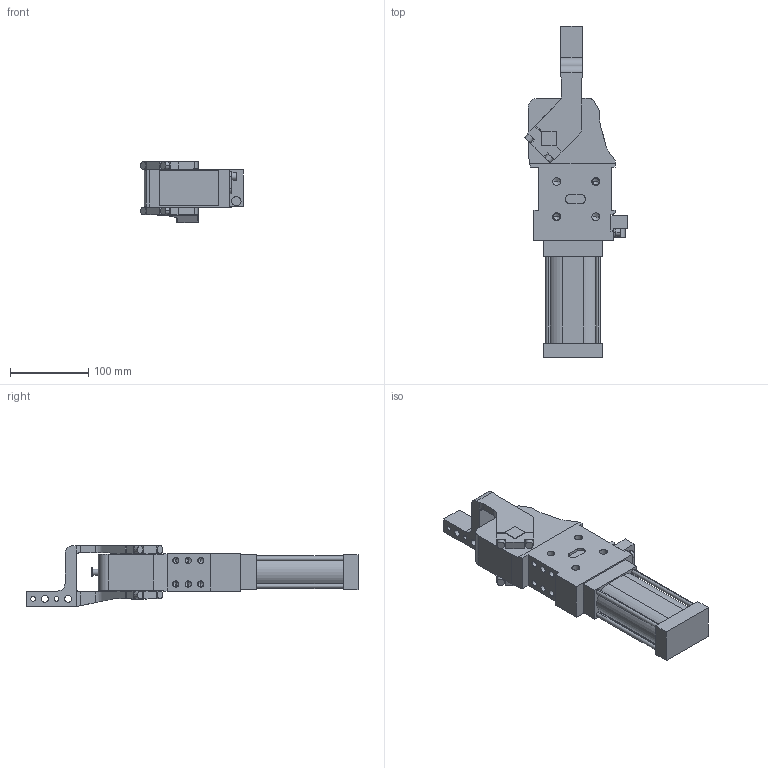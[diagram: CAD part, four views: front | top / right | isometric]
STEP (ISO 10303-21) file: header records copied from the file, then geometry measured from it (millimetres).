
FILE_DESCRIPTION (( 'STEP AP214' ), '1' );
FILE_NAME ('cpl50h1dsi1g_75.STEP', '2023-01-26T08:46:47', ( '' ), ( '' ), 'SwSTEP 2.0', 'SolidWorks 2022', '' );
FILE_SCHEMA (( 'AUTOMOTIVE_DESIGN' ));
Length unit declared in the file: millimetre
Products named in the file (4): meccanica_cpl_50; cpl50h1dsi1g_75; blocchetto_VEP_0; leva_dx_offset_15_cpl50
Assembly tree (3 placements, depth 2):
  cpl50h1dsi1g_75
    meccanica_cpl_50
    blocchetto_VEP_0
    leva_dx_offset_15_cpl50
Bounding box: 131.47 x 424.5 x 78.5 mm (x, y, z)
Volume: 1387864 mm3; surface area: 163615.7 mm2
Topology: 3 solids, 3 shells, 399 faces, 1029 edges, 639 vertices
Faces by surface type: plane 193, cylinder 156, cone 50
Entity records: 13413 total; most frequent: CARTESIAN_POINT 2115, DIRECTION 2109, ORIENTED_EDGE 1966, EDGE_CURVE 983, AXIS2_PLACEMENT_3D 731, VECTOR 647, LINE 647, VERTEX_POINT 639
